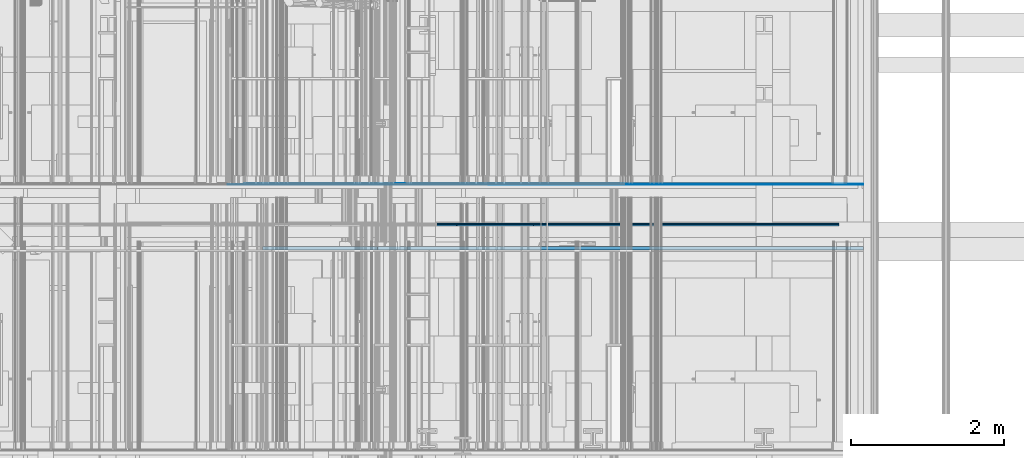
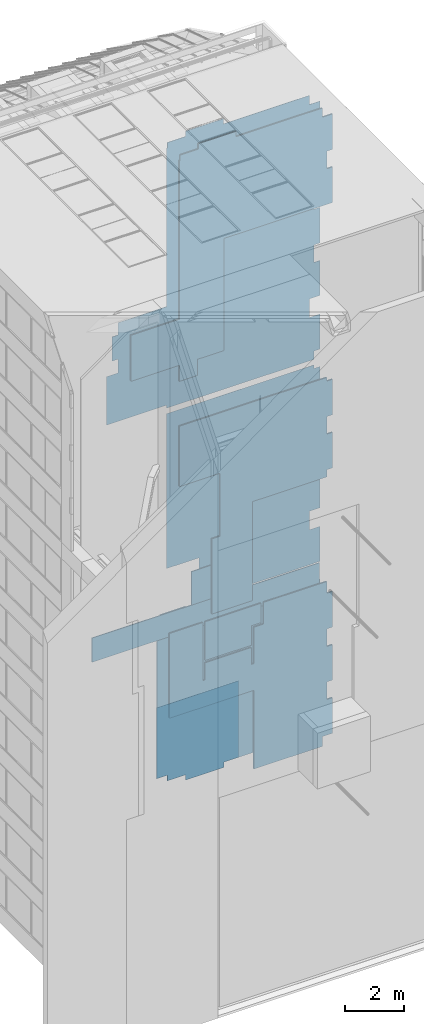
# One storey, part 257 of 583: 13 slabs.
"""IFC2X3 building model written with IfcOpenShell, lengths in metres."""

import ifcopenshell
import ifcopenshell.guid

model = None  # the IFC model being written
_history = None  # IfcOwnerHistory: only IFC2X3 demands one
_inside = {}  # id of a spatial element -> (the spatial element, [elements in it])
_under = {}  # id of a project, library or spatial element -> (it, [spatial elements below it])
_declared = {}  # id of a project -> (the project, [libraries it declares])
_typed = {}  # id of a type object -> (the type object, [elements of that type])
_made_of = {}  # id of a material, layer set ... -> (it, [elements and type objects made of it])


def new_model(schema):
    """Start an empty IFC model of exactly this schema.

    Asked for "IFC4X3", IfcOpenShell would pick the latest addendum, in which some entities
    have other attributes; the version numbers below select the first issue.
    IFC2X3 requires an IfcOwnerHistory on every rooted entity: one is made here for all.
    """
    global model, _history
    if schema == "IFC4X3":
        model = ifcopenshell.file(schema_version=(4, 3, 0, 0))
    else:
        model = ifcopenshell.file(schema=schema)
    _inside.clear()
    _under.clear()
    _declared.clear()
    _typed.clear()
    _made_of.clear()
    _history = None
    if model.schema == "IFC2X3":
        org = make("IfcOrganization", Name="unknown")
        user = make(
            "IfcPersonAndOrganization",
            ThePerson=make("IfcPerson", FamilyName="unknown"),
            TheOrganization=org,
        )
        app = make(
            "IfcApplication",
            ApplicationDeveloper=org,
            Version="unknown",
            ApplicationFullName="unknown",
            ApplicationIdentifier="unknown",
        )
        _history = make(
            "IfcOwnerHistory",
            OwningUser=user,
            OwningApplication=app,
            ChangeAction="ADDED",
            CreationDate=0,
        )
    return model


def make(cls, **values):
    """One entity of the class cls with the attributes given. An attribute that is None is left unset."""
    return model.create_entity(
        cls, **{name: value for name, value in values.items() if value is not None}
    )


def entity(cls, *values):
    """Any entity or typed value of the class cls, its attributes in the order of the schema. None: left unset."""
    e = model.create_entity(cls)
    for i, value in enumerate(values):
        if value is not None:
            e[i] = value
    return e


def rooted(cls, **values):
    """An entity with a GlobalId (a new one), such as an element, a storey or a relation."""
    return make(cls, GlobalId=ifcopenshell.guid.new(), OwnerHistory=_history, **values)


def si_unit(unit_type, name, prefix=None):
    """IfcSIUnit, for example si_unit("LENGTHUNIT", "METRE", prefix="MILLI")."""
    return make("IfcSIUnit", UnitType=unit_type, Prefix=prefix, Name=name)


def converted_unit(unit_type, name, factor, base, dimensions=None, offset=None):
    """IfcConversionBasedUnit, such as the inch: factor (a typed value) times the base unit."""
    return make(
        "IfcConversionBasedUnit"
        if offset is None
        else "IfcConversionBasedUnitWithOffset",
        ConversionOffset=offset,
        Dimensions=None
        if dimensions is None
        else entity("IfcDimensionalExponents", *dimensions),
        UnitType=unit_type,
        Name=name,
        ConversionFactor=make(
            "IfcMeasureWithUnit", ValueComponent=factor, UnitComponent=base
        ),
    )


def derived_unit(unit_type, elements):
    """IfcDerivedUnit: a product of units, each with its exponent."""
    return make(
        "IfcDerivedUnit",
        Elements=[
            make("IfcDerivedUnitElement", Unit=unit, Exponent=power)
            for unit, power in elements
        ],
        UnitType=unit_type,
    )


def money_unit(currency):
    """IfcMonetaryUnit."""
    return make("IfcMonetaryUnit", Currency=currency)


def assignment(units):
    """IfcUnitAssignment: the units of a project."""
    return None if units is None else make("IfcUnitAssignment", Units=units)


def point(xyz):
    """IfcCartesianPoint."""
    return None if xyz is None else make("IfcCartesianPoint", Coordinates=xyz)


def direction(xyz):
    """IfcDirection."""
    return None if xyz is None else make("IfcDirection", DirectionRatios=xyz)


def frame(location, z_axis=None, x_axis=None):
    """IfcAxis2Placement3D, a coordinate frame: its origin and axes. An axis left out is left unset."""
    return make(
        "IfcAxis2Placement3D",
        Location=point(location),
        Axis=direction(z_axis),
        RefDirection=direction(x_axis),
    )


def origin_with_axes():
    """The frame at (0, 0, 0) with the z axis (0, 0, 1) and the x axis (1, 0, 0) written out."""
    return frame((0.0, 0.0, 0.0), z_axis=(0.0, 0.0, 1.0), x_axis=(1.0, 0.0, 0.0))


def place(relative_to, where):
    """IfcLocalPlacement: puts the frame where relative to a parent placement (None: the world)."""
    return make(
        "IfcLocalPlacement", PlacementRelTo=relative_to, RelativePlacement=where
    )


def context(
    kind, dimensions, precision=None, world=None, true_north=None, identifier=None
):
    """IfcGeometricRepresentationContext, for example the 3D "Model" context."""
    return make(
        "IfcGeometricRepresentationContext",
        ContextIdentifier=identifier,
        ContextType=kind,
        CoordinateSpaceDimension=dimensions,
        Precision=precision,
        WorldCoordinateSystem=world,
        TrueNorth=true_north,
    )


def subcontext(parent, identifier, kind, view, scale=None):
    """IfcGeometricRepresentationSubContext, for example "Body" below "Model"."""
    return make(
        "IfcGeometricRepresentationSubContext",
        ContextIdentifier=identifier,
        ContextType=kind,
        ParentContext=parent,
        TargetScale=scale,
        TargetView=view,
    )


def project(units=None, contexts=None):
    """IfcProject with its units and contexts."""
    return rooted(
        "IfcProject",
        Name="project",
        RepresentationContexts=contexts,
        UnitsInContext=assignment(units),
    )


def spatial(cls, under=None, at=None, **own):
    """A site, building, storey or space (cls), placed at a placement, below another one or the project."""
    s = rooted(cls, ObjectPlacement=at, **own)
    if under is not None:
        _under.setdefault(under.id(), (under, []))[1].append(s)
    return s


def faces_of(points, faces, orient=None, outer=None):
    """IfcFace entities. A face is a list of loops; a loop is a list of indices into points, from 0.

    orient and outer hold one flag for each loop. By default every Orientation is true, the
    first loop of a face is its IfcFaceOuterBound and the others are IfcFaceBound.
    """
    made = []
    for i, loops in enumerate(faces):
        bounds = []
        for j, loop in enumerate(loops):
            is_outer = j == 0 if outer is None else outer[i][j]
            bounds.append(
                make(
                    "IfcFaceOuterBound" if is_outer else "IfcFaceBound",
                    Bound=make("IfcPolyLoop", Polygon=[points[k] for k in loop]),
                    Orientation=True if orient is None else orient[i][j],
                )
            )
        made.append(make("IfcFace", Bounds=bounds))
    return made


def faceted_brep(points, faces, orient=None, outer=None, voids=None):
    """IfcFacetedBrep: a solid bounded by flat faces; with voids (closed shells), ...WithVoids."""
    shared = [point(p) for p in points]
    hull = make("IfcClosedShell", CfsFaces=faces_of(shared, faces, orient, outer))
    if voids is None:
        return make("IfcFacetedBrep", Outer=hull)
    return make(
        "IfcFacetedBrepWithVoids",
        Outer=hull,
        Voids=[
            make(cls, CfsFaces=faces_of(shared, fs, o, b)) for cls, fs, o, b in voids
        ],
    )


def shape(context_of_items, identifier, shape_type, items):
    """IfcShapeRepresentation: the items that make up one representation, for example the "Body"."""
    return make(
        "IfcShapeRepresentation",
        ContextOfItems=context_of_items,
        RepresentationIdentifier=identifier,
        RepresentationType=shape_type,
        Items=items,
    )


def material(Name=None, Category=None):
    """IfcMaterial."""
    return make("IfcMaterial", Name=Name, Category=Category)


def made_of(thing, what):
    """Note that an element or type object is made of a material, layer set ...; save() writes the relation."""
    if what is not None:
        _made_of.setdefault(what.id(), (what, []))[1].append(thing)
    return thing


def type_object(cls, material=None, **own):
    """A type object (cls), such as IfcWallType, which elements share."""
    return made_of(rooted(cls, **own), material)


def element(
    cls,
    number,
    at=None,
    inside=None,
    cuts=None,
    type_object=None,
    material=None,
    context=None,
    identifier="Body",
    shape_type=None,
    held_by="IfcProductDefinitionShape",
    body=None,
    shapes=None,
    **own,
):
    """One element of the class cls, such as IfcWall. Its Tag is "e" and its number.

    at: its placement. inside: the storey or other place that contains it. cuts: it is an
    opening in that element (IfcRelVoidsElement). A single representation is given by context,
    identifier, shape_type and body (its items); several are given by shapes. held_by: the class
    of the entity that holds the representations. save() writes the other relations.
    """
    e = rooted(cls, Tag="e%d" % number, ObjectPlacement=at, **own)
    if body is not None:
        shapes = [shape(context, identifier, shape_type, body)]
    if shapes is not None:
        e.Representation = make(held_by, Representations=shapes)
    if inside is not None:
        _inside.setdefault(inside.id(), (inside, []))[1].append(e)
    if cuts is not None:
        rooted(
            "IfcRelVoidsElement", RelatingBuildingElement=cuts, RelatedOpeningElement=e
        )
    if type_object is not None:
        _typed.setdefault(type_object.id(), (type_object, []))[1].append(e)
    return made_of(e, material)


def aggregate(whole, parts):
    """IfcRelAggregates: a whole, such as a stair, and the parts it consists of."""
    return rooted("IfcRelAggregates", RelatingObject=whole, RelatedObjects=parts)


def save(model, path):
    """Write the relations noted so far, then the file.

    IfcRelAggregates (storeys below a building ...), IfcRelContainedInSpatialStructure (elements
    in a storey), IfcRelDefinesByType, IfcRelAssociatesMaterial and IfcRelDeclares: one each for
    every whole, place, type object, material and project.
    """
    for whole, parts in _under.values():
        aggregate(whole, parts)
    for where, things in _inside.values():
        rooted(
            "IfcRelContainedInSpatialStructure",
            RelatedElements=things,
            RelatingStructure=where,
        )
    for kind, things in _typed.values():
        rooted("IfcRelDefinesByType", RelatedObjects=things, RelatingType=kind)
    for what, things in _made_of.values():
        rooted("IfcRelAssociatesMaterial", RelatedObjects=things, RelatingMaterial=what)
    for by, libraries in _declared.values():
        rooted("IfcRelDeclares", RelatingContext=by, RelatedDefinitions=libraries)
    model.write(path)


model = new_model("IFC2X3")

# Units and contexts
model_context = context("Model", 3, precision=1e-05, world=origin_with_axes(), true_north=direction((0.0, 1.0)))
body_context = subcontext(model_context, "Body", "Model", "MODEL_VIEW", scale=1.0)
ifc_project = project(units=[si_unit("LENGTHUNIT", "METRE"), si_unit("AREAUNIT", "SQUARE_METRE"), si_unit("VOLUMEUNIT", "CUBIC_METRE"), si_unit("ABSORBEDDOSEUNIT", "GRAY"), si_unit("AMOUNTOFSUBSTANCEUNIT", "MOLE"), si_unit("DOSEEQUIVALENTUNIT", "SIEVERT"), si_unit("ELECTRICCAPACITANCEUNIT", "FARAD"), si_unit("ELECTRICCHARGEUNIT", "COULOMB"), si_unit("ELECTRICCONDUCTANCEUNIT", "SIEMENS"), si_unit("ELECTRICCURRENTUNIT", "AMPERE"), si_unit("ELECTRICRESISTANCEUNIT", "OHM"), si_unit("ELECTRICVOLTAGEUNIT", "VOLT"), si_unit("ENERGYUNIT", "JOULE"), si_unit("FORCEUNIT", "NEWTON"), si_unit("FREQUENCYUNIT", "HERTZ"), si_unit("ILLUMINANCEUNIT", "LUX"), si_unit("INDUCTANCEUNIT", "HENRY"), si_unit("LUMINOUSFLUXUNIT", "LUMEN"), si_unit("LUMINOUSINTENSITYUNIT", "CANDELA"), si_unit("MAGNETICFLUXDENSITYUNIT", "TESLA"), si_unit("MAGNETICFLUXUNIT", "WEBER"), si_unit("MASSUNIT", "GRAM"), converted_unit("PLANEANGLEUNIT", "degree", entity("IfcReal", 0.0174532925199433), si_unit("PLANEANGLEUNIT", "RADIAN"), dimensions=[0, 0, 0, 0, 0, 0, 0]), si_unit("POWERUNIT", "WATT"), si_unit("PRESSUREUNIT", "PASCAL"), si_unit("RADIOACTIVITYUNIT", "BECQUEREL"), si_unit("SOLIDANGLEUNIT", "STERADIAN"), si_unit("THERMODYNAMICTEMPERATUREUNIT", "KELVIN"), si_unit("TIMEUNIT", "SECOND"), derived_unit("ACCELERATIONUNIT", [(si_unit("LENGTHUNIT", "METRE"), 1), (si_unit("TIMEUNIT", "SECOND"), -2)]), derived_unit("ANGULARVELOCITYUNIT", [(converted_unit("PLANEANGLEUNIT", "degree", entity("IfcReal", 0.0174532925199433), si_unit("PLANEANGLEUNIT", "RADIAN"), dimensions=[0, 0, 0, 0, 0, 0, 0]), 1), (si_unit("TIMEUNIT", "SECOND"), -1)]), derived_unit("CURVATUREUNIT", [(converted_unit("PLANEANGLEUNIT", "degree", entity("IfcReal", 0.0174532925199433), si_unit("PLANEANGLEUNIT", "RADIAN"), dimensions=[0, 0, 0, 0, 0, 0, 0]), 1), (si_unit("LENGTHUNIT", "METRE"), -1)]), derived_unit("DYNAMICVISCOSITYUNIT", [(si_unit("PRESSUREUNIT", "PASCAL"), 1), (si_unit("TIMEUNIT", "SECOND"), 1)]), derived_unit("HEATFLUXDENSITYUNIT", [(si_unit("POWERUNIT", "WATT"), 1), (si_unit("LENGTHUNIT", "METRE"), -2)]), derived_unit("HEATINGVALUEUNIT", [(si_unit("ENERGYUNIT", "JOULE"), 1), (si_unit("MASSUNIT", "GRAM"), -1)]), derived_unit("INTEGERCOUNTRATEUNIT", [(si_unit("TIMEUNIT", "SECOND"), -1)]), derived_unit("IONCONCENTRATIONUNIT", [(si_unit("MASSUNIT", "GRAM"), 1), (si_unit("VOLUMEUNIT", "CUBIC_METRE"), -1)]), derived_unit("ISOTHERMALMOISTURECAPACITYUNIT", [(si_unit("VOLUMEUNIT", "CUBIC_METRE"), 1), (si_unit("MASSUNIT", "GRAM"), -1)]), derived_unit("KINEMATICVISCOSITYUNIT", [(si_unit("AREAUNIT", "SQUARE_METRE"), 1), (si_unit("TIMEUNIT", "SECOND"), -1)]), derived_unit("LINEARFORCEUNIT", [(si_unit("FORCEUNIT", "NEWTON"), 1), (si_unit("LENGTHUNIT", "METRE"), -1)]), derived_unit("LINEARMOMENTUNIT", [(si_unit("FORCEUNIT", "NEWTON"), 1), (si_unit("LENGTHUNIT", "METRE"), -1)]), derived_unit("LINEARSTIFFNESSUNIT", [(si_unit("FORCEUNIT", "NEWTON"), 1), (si_unit("LENGTHUNIT", "METRE"), -1)]), derived_unit("LINEARVELOCITYUNIT", [(si_unit("LENGTHUNIT", "METRE"), 1), (si_unit("TIMEUNIT", "SECOND"), -1)]), derived_unit("LUMINOUSINTENSITYDISTRIBUTIONUNIT", [(si_unit("LUMINOUSINTENSITYUNIT", "CANDELA"), 1), (si_unit("LUMINOUSFLUXUNIT", "LUMEN"), -1)]), derived_unit("MASSDENSITYUNIT", [(si_unit("MASSUNIT", "GRAM"), 1), (si_unit("VOLUMEUNIT", "CUBIC_METRE"), -1)]), derived_unit("MASSFLOWRATEUNIT", [(si_unit("MASSUNIT", "GRAM"), 1), (si_unit("TIMEUNIT", "SECOND"), -1)]), derived_unit("MASSPERLENGTHUNIT", [(si_unit("MASSUNIT", "GRAM"), 1), (si_unit("LENGTHUNIT", "METRE"), -1)]), derived_unit("MODULUSOFELASTICITYUNIT", [(si_unit("FORCEUNIT", "NEWTON"), 1), (si_unit("AREAUNIT", "SQUARE_METRE"), -1)]), derived_unit("MODULUSOFLINEARSUBGRADEREACTIONUNIT", [(si_unit("FORCEUNIT", "NEWTON"), 1), (si_unit("LENGTHUNIT", "METRE"), -2)]), derived_unit("MODULUSOFROTATIONALSUBGRADEREACTIONUNIT", [(si_unit("FORCEUNIT", "NEWTON"), 1), (si_unit("LENGTHUNIT", "METRE"), 1)]), derived_unit("MODULUSOFSUBGRADEREACTIONUNIT", [(si_unit("FORCEUNIT", "NEWTON"), 1), (si_unit("VOLUMEUNIT", "CUBIC_METRE"), -1)]), derived_unit("MOISTUREDIFFUSIVITYUNIT", [(si_unit("VOLUMEUNIT", "CUBIC_METRE"), 1), (si_unit("TIMEUNIT", "SECOND"), -1)]), derived_unit("MOLECULARWEIGHTUNIT", [(si_unit("MASSUNIT", "GRAM"), 1), (si_unit("AMOUNTOFSUBSTANCEUNIT", "MOLE"), -1)]), derived_unit("PLANARFORCEUNIT", [(si_unit("FORCEUNIT", "NEWTON"), 1), (si_unit("LENGTHUNIT", "METRE"), -2)]), derived_unit("ROTATIONALFREQUENCYUNIT", [(si_unit("TIMEUNIT", "SECOND"), -1)]), derived_unit("ROTATIONALMASSUNIT", [(si_unit("MASSUNIT", "GRAM"), 1), (si_unit("LENGTHUNIT", "METRE"), 2)]), derived_unit("ROTATIONALSTIFFNESSUNIT", [(si_unit("FORCEUNIT", "NEWTON"), 1), (si_unit("LENGTHUNIT", "METRE"), 1), (converted_unit("PLANEANGLEUNIT", "degree", entity("IfcReal", 0.0174532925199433), si_unit("PLANEANGLEUNIT", "RADIAN"), dimensions=[0, 0, 0, 0, 0, 0, 0]), -1)]), derived_unit("SECTIONAREAINTEGRALUNIT", [(si_unit("LENGTHUNIT", "METRE"), 5)]), derived_unit("SECTIONMODULUSUNIT", [(si_unit("LENGTHUNIT", "METRE"), 3)]), derived_unit("SHEARMODULUSUNIT", [(si_unit("FORCEUNIT", "NEWTON"), 1), (si_unit("AREAUNIT", "SQUARE_METRE"), -1)]), derived_unit("SOUNDPOWERUNIT", [(si_unit("ENERGYUNIT", "JOULE"), 1), (si_unit("TIMEUNIT", "SECOND"), -1)]), derived_unit("SPECIFICHEATCAPACITYUNIT", [(si_unit("FORCEUNIT", "NEWTON"), 1), (si_unit("MASSUNIT", "GRAM"), -1), (si_unit("THERMODYNAMICTEMPERATUREUNIT", "KELVIN"), -1)]), derived_unit("TEMPERATUREGRADIENTUNIT", [(si_unit("THERMODYNAMICTEMPERATUREUNIT", "KELVIN"), 1), (si_unit("LENGTHUNIT", "METRE"), -1)]), derived_unit("THERMALADMITTANCEUNIT", [(si_unit("POWERUNIT", "WATT"), 1), (si_unit("AREAUNIT", "SQUARE_METRE"), -1), (si_unit("THERMODYNAMICTEMPERATUREUNIT", "KELVIN"), -1)]), derived_unit("THERMALCONDUCTANCEUNIT", [(si_unit("POWERUNIT", "WATT"), 1), (si_unit("LENGTHUNIT", "METRE"), -1), (si_unit("THERMODYNAMICTEMPERATUREUNIT", "KELVIN"), -1)]), derived_unit("THERMALEXPANSIONCOEFFICIENTUNIT", [(si_unit("THERMODYNAMICTEMPERATUREUNIT", "KELVIN"), -1)]), derived_unit("THERMALRESISTANCEUNIT", [(si_unit("AREAUNIT", "SQUARE_METRE"), 1), (si_unit("POWERUNIT", "WATT"), -1)]), derived_unit("THERMALTRANSMITTANCEUNIT", [(si_unit("POWERUNIT", "WATT"), 1), (si_unit("AREAUNIT", "SQUARE_METRE"), -1), (si_unit("THERMODYNAMICTEMPERATUREUNIT", "KELVIN"), -1)]), derived_unit("TORQUEUNIT", [(si_unit("FORCEUNIT", "NEWTON"), 1), (si_unit("LENGTHUNIT", "METRE"), 1)]), derived_unit("VAPORPERMEABILITYUNIT", [(si_unit("MASSUNIT", "GRAM"), 1), (si_unit("TIMEUNIT", "SECOND"), -1)]), derived_unit("VOLUMETRICFLOWRATEUNIT", [(si_unit("VOLUMEUNIT", "CUBIC_METRE"), 1), (si_unit("TIMEUNIT", "SECOND"), -1)]), derived_unit("WARPINGCONSTANTUNIT", [(si_unit("LENGTHUNIT", "METRE"), 6)]), derived_unit("WARPINGMOMENTUNIT", [(si_unit("FORCEUNIT", "NEWTON"), 1), (si_unit("LENGTHUNIT", "METRE"), 2)]), money_unit("GBP")], contexts=[model_context])

# Site, building, storey
site_placement = place(None, origin_with_axes())
site = spatial("IfcSite", under=ifc_project, at=site_placement, Name="Site", CompositionType="ELEMENT")
building_placement = place(site_placement, origin_with_axes())
building = spatial("IfcBuilding", under=site, at=building_placement, Name="Building01", CompositionType="ELEMENT")
storey_placement = place(building_placement, frame((0.0, 0.0, 20.78), z_axis=(0.0, 0.0, 1.0), x_axis=(1.0, 0.0, 0.0)))
storey = spatial("IfcBuildingStorey", under=building, at=storey_placement, Name="RL", CompositionType="ELEMENT", Elevation=20.78)

# Slabs
ifc_material_1 = material(Name="A_BSUK_ExpandedPolystyreneBoards")
slab_type_1 = type_object("IfcSlabType", Name="A-FloorsSlabs A_BSUK_Slabs", PredefinedType="FLOOR")
placement = place(storey_placement, frame((0.0, 0.0, -20.78), z_axis=(0.0, 0.0, 1.0), x_axis=(1.0, 0.0, 0.0)))
element("IfcSlab", 1, at=placement, inside=storey, type_object=slab_type_1, material=ifc_material_1, Name="A-FloorsSlabs A_BSUK_Slabs", ObjectType="CompoundSlabLeaf", context=body_context, shape_type="Brep", body=[
    faceted_brep([(14.402, 12.13, 0.725), (14.402, 12.133, 0.725), (14.8, 12.133, 0.725), (14.8, 12.13, 0.725), (14.402, 12.13, 0.318), (14.402, 12.133, 0.318), (11.055, 12.13, 0.318), (11.055, 12.133, 0.318), (11.055, 12.13, 0.1), (11.055, 12.133, 0.1), (9.56218, 12.13, 0.1), (9.56218, 12.133, 0.1), (9.56218, 12.13, 0.318), (9.56218, 12.133, 0.318), (8.848, 12.13, 0.318), (8.848, 12.133, 0.318), (8.848, 12.13, 0.548), (8.848, 12.133, 0.548), (8.43567, 12.13, 0.548), (8.43567, 12.133, 0.548), (8.43567, 12.13, 7.064669), (8.43567, 12.133, 7.064669), (8.550704, 12.13, 7.064669), (8.550704, 12.133, 7.064669), (8.550704, 12.13, 7.289669), (8.550704, 12.133, 7.289669), (9.550704, 12.13, 7.289669), (9.550704, 12.133, 7.289669), (9.550704, 12.13, 7.064669), (9.550704, 12.133, 7.064669), (14.582, 12.13, 7.064669), (14.582, 12.133, 7.064669), (14.582, 12.13, 6.574876), (14.582, 12.133, 6.574876), (14.8, 12.13, 6.574876), (14.8, 12.133, 6.574876), (14.8, 12.13, 5.105), (14.8, 12.133, 5.105), (14.582, 12.13, 5.105), (14.582, 12.133, 5.105), (14.582, 12.13, 4.385), (14.582, 12.133, 4.385), (14.8, 12.13, 4.385), (14.8, 12.133, 4.385), (14.8, 12.13, 2.915), (14.8, 12.133, 2.915), (14.582, 12.13, 2.915), (14.582, 12.133, 2.915), (14.582, 12.13, 2.195), (14.582, 12.133, 2.195), (14.8, 12.13, 2.195), (14.8, 12.133, 2.195)], [[[0, 1, 2, 3]], [[4, 5, 1, 0]], [[6, 7, 5, 4]], [[8, 9, 7, 6]], [[10, 11, 9, 8]], [[12, 13, 11, 10]], [[14, 15, 13, 12]], [[16, 17, 15, 14]], [[18, 19, 17, 16]], [[20, 21, 19, 18]], [[22, 23, 21, 20]], [[24, 25, 23, 22]], [[26, 27, 25, 24]], [[28, 29, 27, 26]], [[30, 31, 29, 28]], [[32, 33, 31, 30]], [[34, 35, 33, 32]], [[36, 37, 35, 34]], [[38, 39, 37, 36]], [[40, 41, 39, 38]], [[42, 43, 41, 40]], [[44, 45, 43, 42]], [[46, 47, 45, 44]], [[48, 49, 47, 46]], [[50, 51, 49, 48]], [[3, 2, 51, 50]], [[1, 5, 7, 9, 11, 13, 15, 17, 19, 21, 23, 25, 27, 29, 31, 33, 35, 37, 39, 41, 43, 45, 47, 49, 51, 2]], [[3, 50, 48, 46, 44, 42, 40, 38, 36, 34, 32, 30, 28, 26, 24, 22, 20, 18, 16, 14, 12, 10, 8, 6, 4, 0]]]),
])
element("IfcSlab", 2, at=placement, inside=storey, type_object=slab_type_1, material=ifc_material_1, Name="A-FloorsSlabs A_BSUK_Slabs", ObjectType="CompoundSlabLeaf", context=body_context, shape_type="Brep", body=[
    faceted_brep([(10.087704, 12.13, 7.289669), (10.087704, 12.133, 7.289669), (14.582, 12.133, 7.289669), (14.582, 12.13, 7.289669), (10.087704, 12.13, 9.09), (10.087704, 12.133, 9.09), (9.200704, 12.13, 9.09), (9.200704, 12.133, 9.09), (8.82, 12.13, 9.09), (8.82, 12.133, 9.09), (8.82, 12.13, 12.893585), (8.82, 12.133, 12.893585), (8.82, 12.13, 15.483132), (8.82, 12.133, 15.483132), (14.582, 12.13, 15.483132), (14.582, 12.133, 15.483132), (14.582, 12.13, 15.335), (14.582, 12.133, 15.335), (14.8, 12.13, 15.335), (14.8, 12.133, 15.335), (14.8, 12.13, 13.865), (14.8, 12.133, 13.865), (14.582, 12.13, 13.865), (14.582, 12.133, 13.865), (14.582, 12.13, 13.145), (14.582, 12.133, 13.145), (14.8, 12.13, 13.145), (14.8, 12.133, 13.145), (14.8, 12.13, 11.675), (14.8, 12.133, 11.675), (14.582, 12.13, 11.675), (14.582, 12.133, 11.675), (14.582, 12.13, 10.955), (14.582, 12.133, 10.955), (14.8, 12.13, 10.955), (14.8, 12.133, 10.955), (14.8, 12.13, 9.508), (14.8, 12.133, 9.508), (14.402, 12.13, 9.508), (14.402, 12.133, 9.508), (14.402, 12.13, 8.742), (14.402, 12.133, 8.742), (14.8, 12.13, 8.742), (14.8, 12.133, 8.742), (14.8, 12.13, 7.295), (14.8, 12.133, 7.295), (14.582, 12.13, 7.295), (14.582, 12.133, 7.295)], [[[0, 1, 2, 3]], [[4, 5, 1, 0]], [[6, 7, 5, 4]], [[8, 9, 7, 6]], [[10, 11, 9, 8]], [[12, 13, 11, 10]], [[14, 15, 13, 12]], [[16, 17, 15, 14]], [[18, 19, 17, 16]], [[20, 21, 19, 18]], [[22, 23, 21, 20]], [[24, 25, 23, 22]], [[26, 27, 25, 24]], [[28, 29, 27, 26]], [[30, 31, 29, 28]], [[32, 33, 31, 30]], [[34, 35, 33, 32]], [[36, 37, 35, 34]], [[38, 39, 37, 36]], [[40, 41, 39, 38]], [[42, 43, 41, 40]], [[44, 45, 43, 42]], [[46, 47, 45, 44]], [[3, 2, 47, 46]], [[1, 5, 7, 9, 11, 13, 15, 17, 19, 21, 23, 25, 27, 29, 31, 33, 35, 37, 39, 41, 43, 45, 47, 2]], [[3, 46, 44, 42, 40, 38, 36, 34, 32, 30, 28, 26, 24, 22, 20, 18, 16, 14, 12, 10, 8, 6, 4, 0]]]),
])
element("IfcSlab", 3, at=placement, inside=storey, type_object=slab_type_1, material=ifc_material_1, Name="A-FloorsSlabs A_BSUK_Slabs", ObjectType="CompoundSlabLeaf", context=body_context, shape_type="Brep", body=[
    faceted_brep([(8.82, 12.13, 15.83), (8.82, 12.133, 15.83), (8.82, 12.133, 15.708132), (8.82, 12.13, 15.708132), (8.65, 12.13, 15.83), (8.65, 12.133, 15.83), (6.475, 12.13, 15.83), (6.475, 12.133, 15.83), (6.475, 12.13, 17.83), (6.475, 12.133, 17.83), (6.93, 12.13, 17.83), (6.93, 12.133, 17.83), (6.93, 12.13, 18.0), (6.93, 12.133, 18.0), (6.93, 12.13, 18.392), (6.93, 12.133, 18.392), (6.69, 12.13, 18.392), (6.69, 12.133, 18.392), (6.69, 12.13, 19.392), (6.69, 12.133, 19.392), (6.93, 12.13, 19.392), (6.93, 12.133, 19.392), (6.93, 12.13, 19.897661), (6.93, 12.133, 19.897661), (8.82, 12.13, 19.897661), (8.82, 12.133, 19.897661), (8.82, 12.13, 26.432), (8.82, 12.133, 26.432), (8.848, 12.13, 26.432), (8.848, 12.133, 26.432), (8.848, 12.13, 26.662), (8.848, 12.133, 26.662), (9.56218, 12.13, 26.662), (9.56218, 12.133, 26.662), (9.56218, 12.13, 26.88), (9.56218, 12.133, 26.88), (11.03218, 12.13, 26.88), (11.03218, 12.133, 26.88), (11.03218, 12.13, 26.662), (11.03218, 12.133, 26.662), (14.402, 12.13, 26.662), (14.402, 12.133, 26.662), (14.402, 12.13, 26.285), (14.402, 12.133, 26.285), (14.8, 12.13, 26.285), (14.8, 12.133, 26.285), (14.8, 12.13, 24.815), (14.8, 12.133, 24.815), (14.582, 12.13, 24.815), (14.582, 12.133, 24.815), (14.582, 12.13, 24.095), (14.582, 12.133, 24.095), (14.8, 12.13, 24.095), (14.8, 12.133, 24.095), (14.8, 12.13, 22.625), (14.8, 12.133, 22.625), (14.582, 12.13, 22.625), (14.582, 12.133, 22.625), (14.582, 12.13, 21.905), (14.582, 12.133, 21.905), (14.8, 12.13, 21.905), (14.8, 12.133, 21.905), (14.8, 12.13, 20.435), (14.8, 12.133, 20.435), (14.582, 12.13, 20.435), (14.582, 12.133, 20.435), (14.582, 12.13, 19.715), (14.582, 12.133, 19.715), (14.8, 12.13, 19.715), (14.8, 12.133, 19.715), (14.8, 12.13, 18.268), (14.8, 12.133, 18.268), (14.402, 12.13, 18.268), (14.402, 12.133, 18.268), (14.402, 12.13, 17.502), (14.402, 12.133, 17.502), (14.8, 12.13, 17.502), (14.8, 12.133, 17.502), (14.8, 12.13, 16.055), (14.8, 12.133, 16.055), (14.582, 12.13, 16.055), (14.582, 12.133, 16.055), (14.582, 12.13, 15.708132), (14.582, 12.133, 15.708132)], [[[0, 1, 2, 3]], [[4, 5, 1, 0]], [[6, 7, 5, 4]], [[8, 9, 7, 6]], [[10, 11, 9, 8]], [[12, 13, 11, 10]], [[14, 15, 13, 12]], [[16, 17, 15, 14]], [[18, 19, 17, 16]], [[20, 21, 19, 18]], [[22, 23, 21, 20]], [[24, 25, 23, 22]], [[26, 27, 25, 24]], [[28, 29, 27, 26]], [[30, 31, 29, 28]], [[32, 33, 31, 30]], [[34, 35, 33, 32]], [[36, 37, 35, 34]], [[38, 39, 37, 36]], [[40, 41, 39, 38]], [[42, 43, 41, 40]], [[44, 45, 43, 42]], [[46, 47, 45, 44]], [[48, 49, 47, 46]], [[50, 51, 49, 48]], [[52, 53, 51, 50]], [[54, 55, 53, 52]], [[56, 57, 55, 54]], [[58, 59, 57, 56]], [[60, 61, 59, 58]], [[62, 63, 61, 60]], [[64, 65, 63, 62]], [[66, 67, 65, 64]], [[68, 69, 67, 66]], [[70, 71, 69, 68]], [[72, 73, 71, 70]], [[74, 75, 73, 72]], [[76, 77, 75, 74]], [[78, 79, 77, 76]], [[80, 81, 79, 78]], [[82, 83, 81, 80]], [[3, 2, 83, 82]], [[1, 5, 7, 9, 11, 13, 15, 17, 19, 21, 23, 25, 27, 29, 31, 33, 35, 37, 39, 41, 43, 45, 47, 49, 51, 53, 55, 57, 59, 61, 63, 65, 67, 69, 71, 73, 75, 77, 79, 81, 83, 2]], [[3, 82, 80, 78, 76, 74, 72, 70, 68, 66, 64, 62, 60, 58, 56, 54, 52, 50, 48, 46, 44, 42, 40, 38, 36, 34, 32, 30, 28, 26, 24, 22, 20, 18, 16, 14, 12, 10, 8, 6, 4, 0]]]),
])
ifc_material_2 = material(Name="A_BSUK_Carpet-Pile")
element("IfcSlab", 4, at=placement, inside=storey, type_object=slab_type_1, material=ifc_material_2, Name="A-FloorsSlabs A_BSUK_Slabs", ObjectType="CompoundSlabLeaf", context=body_context, shape_type="Brep", body=[
    faceted_brep([(11.63067, 12.133, 0.318), (11.63067, 12.145, 0.318), (11.63067, 12.145, 3.474669), (11.63067, 12.133, 3.474669), (11.055, 12.133, 0.318), (11.055, 12.145, 0.318), (11.055, 12.133, 0.1), (11.055, 12.145, 0.1), (9.56218, 12.133, 0.1), (9.56218, 12.145, 0.1), (9.56218, 12.133, 0.318), (9.56218, 12.145, 0.318), (8.848, 12.133, 0.318), (8.848, 12.145, 0.318), (8.848, 12.133, 0.548), (8.848, 12.145, 0.548), (8.43567, 12.133, 0.548), (8.43567, 12.145, 0.548), (8.43567, 12.133, 3.474669), (8.43567, 12.145, 3.474669)], [[[0, 1, 2, 3]], [[4, 5, 1, 0]], [[6, 7, 5, 4]], [[8, 9, 7, 6]], [[10, 11, 9, 8]], [[12, 13, 11, 10]], [[14, 15, 13, 12]], [[16, 17, 15, 14]], [[18, 19, 17, 16]], [[3, 2, 19, 18]], [[1, 5, 7, 9, 11, 13, 15, 17, 19, 2]], [[3, 18, 16, 14, 12, 10, 8, 6, 4, 0]]]),
])
ifc_material_3 = material(Name="A_BSUK_Parquet_Floor")
element("IfcSlab", 5, at=placement, inside=storey, type_object=slab_type_1, material=ifc_material_3, Name="A-FloorsSlabs A_BSUK_Slabs", ObjectType="CompoundSlabLeaf", context=body_context, shape_type="Brep", body=[
    faceted_brep([(6.69, 12.133, 18.392), (6.69, 12.145, 18.392), (6.93, 12.145, 18.392), (6.93, 12.133, 18.392), (6.69, 12.133, 19.392), (6.69, 12.145, 19.392), (6.93, 12.133, 19.392), (6.93, 12.145, 19.392), (6.93, 12.133, 19.897661), (6.93, 12.145, 19.897661), (8.82, 12.133, 19.897661), (8.82, 12.145, 19.897661), (8.82, 12.133, 26.432), (8.82, 12.145, 26.432), (8.848, 12.133, 26.432), (8.848, 12.145, 26.432), (8.848, 12.133, 26.662), (8.848, 12.145, 26.662), (9.56218, 12.133, 26.662), (9.56218, 12.145, 26.662), (9.56218, 12.133, 26.88), (9.56218, 12.145, 26.88), (11.03218, 12.133, 26.88), (11.03218, 12.145, 26.88), (11.03218, 12.133, 26.662), (11.03218, 12.145, 26.662), (14.402, 12.133, 26.662), (14.402, 12.145, 26.662), (14.402, 12.133, 26.285), (14.402, 12.145, 26.285), (14.8, 12.133, 26.285), (14.8, 12.145, 26.285), (14.8, 12.133, 24.815), (14.8, 12.145, 24.815), (14.582, 12.133, 24.815), (14.582, 12.145, 24.815), (14.582, 12.133, 24.095), (14.582, 12.145, 24.095), (14.8, 12.133, 24.095), (14.8, 12.145, 24.095), (14.8, 12.133, 22.625), (14.8, 12.145, 22.625), (10.57, 12.133, 22.625), (10.57, 12.145, 22.625), (10.57, 12.133, 20.902284), (10.57, 12.145, 20.902284), (10.665, 12.133, 20.902284), (10.665, 12.145, 20.902284), (10.665, 12.133, 19.918284), (10.665, 12.145, 19.918284), (10.57, 12.133, 19.918284), (10.57, 12.145, 19.918284), (10.57, 12.133, 19.017398), (10.57, 12.145, 19.017398), (10.665, 12.133, 19.017398), (10.665, 12.145, 19.017398), (10.665, 12.133, 18.033398), (10.665, 12.145, 18.033398), (10.57, 12.133, 18.033398), (10.57, 12.145, 18.033398), (10.57, 12.133, 18.0), (10.57, 12.145, 18.0), (9.967396, 12.133, 18.0), (9.967396, 12.145, 18.0), (9.525, 12.133, 18.0), (9.525, 12.145, 18.0), (9.525, 12.133, 17.333132), (9.525, 12.145, 17.333132), (8.82, 12.133, 17.333132), (8.82, 12.145, 17.333132), (8.82, 12.133, 17.905), (8.82, 12.145, 17.905), (8.82, 12.133, 18.0), (8.82, 12.145, 18.0), (7.82088, 12.133, 18.0), (7.82088, 12.145, 18.0), (7.82088, 12.133, 17.83), (7.82088, 12.145, 17.83), (7.02888, 12.133, 17.83), (7.02888, 12.145, 17.83), (7.02888, 12.133, 18.0), (7.02888, 12.145, 18.0), (6.93, 12.133, 18.0), (6.93, 12.145, 18.0)], [[[0, 1, 2, 3]], [[4, 5, 1, 0]], [[6, 7, 5, 4]], [[8, 9, 7, 6]], [[10, 11, 9, 8]], [[12, 13, 11, 10]], [[14, 15, 13, 12]], [[16, 17, 15, 14]], [[18, 19, 17, 16]], [[20, 21, 19, 18]], [[22, 23, 21, 20]], [[24, 25, 23, 22]], [[26, 27, 25, 24]], [[28, 29, 27, 26]], [[30, 31, 29, 28]], [[32, 33, 31, 30]], [[34, 35, 33, 32]], [[36, 37, 35, 34]], [[38, 39, 37, 36]], [[40, 41, 39, 38]], [[42, 43, 41, 40]], [[44, 45, 43, 42]], [[46, 47, 45, 44]], [[48, 49, 47, 46]], [[50, 51, 49, 48]], [[52, 53, 51, 50]], [[54, 55, 53, 52]], [[56, 57, 55, 54]], [[58, 59, 57, 56]], [[60, 61, 59, 58]], [[62, 63, 61, 60]], [[64, 65, 63, 62]], [[66, 67, 65, 64]], [[68, 69, 67, 66]], [[70, 71, 69, 68]], [[72, 73, 71, 70]], [[74, 75, 73, 72]], [[76, 77, 75, 74]], [[78, 79, 77, 76]], [[80, 81, 79, 78]], [[82, 83, 81, 80]], [[3, 2, 83, 82]], [[1, 5, 7, 9, 11, 13, 15, 17, 19, 21, 23, 25, 27, 29, 31, 33, 35, 37, 39, 41, 43, 45, 47, 49, 51, 53, 55, 57, 59, 61, 63, 65, 67, 69, 71, 73, 75, 77, 79, 81, 83, 2]], [[3, 82, 80, 78, 76, 74, 72, 70, 68, 66, 64, 62, 60, 58, 56, 54, 52, 50, 48, 46, 44, 42, 40, 38, 36, 34, 32, 30, 28, 26, 24, 22, 20, 18, 16, 14, 12, 10, 8, 6, 4, 0]]]),
])
ifc_material_4 = material(Name="A_BSUK_CeilingSoffitFinishes_Suspended")
element("IfcSlab", 6, at=placement, inside=storey, type_object=slab_type_1, material=ifc_material_4, Name="A-FloorsSlabs A_BSUK_Slabs", ObjectType="CompoundSlabLeaf", context=body_context, shape_type="Brep", body=[
    faceted_brep([(5.593, 11.605, 6.677169), (5.593, 11.62, 6.677169), (14.48, 11.62, 6.677169), (14.48, 11.605, 6.677169), (5.593, 11.605, 7.677169), (5.593, 11.62, 7.677169), (14.48, 11.605, 7.677169), (14.48, 11.62, 7.677169)], [[[0, 1, 2, 3]], [[4, 5, 1, 0]], [[6, 7, 5, 4]], [[3, 2, 7, 6]], [[1, 5, 7, 2]], [[3, 6, 4, 0]]]),
])
element("IfcSlab", 7, at=placement, inside=storey, type_object=slab_type_1, material=ifc_material_4, Name="A-FloorsSlabs A_BSUK_Slabs", ObjectType="CompoundSlabLeaf", context=body_context, shape_type="Brep", body=[
    faceted_brep([(9.475204, 11.605, 7.677169), (9.475204, 11.62, 7.677169), (10.475204, 11.62, 7.677169), (10.475204, 11.605, 7.677169), (9.475204, 11.605, 9.06), (9.475204, 11.62, 9.06), (10.475204, 11.605, 9.06), (10.475204, 11.62, 9.06)], [[[0, 1, 2, 3]], [[4, 5, 1, 0]], [[6, 7, 5, 4]], [[3, 2, 7, 6]], [[1, 5, 7, 2]], [[3, 6, 4, 0]]]),
])
element("IfcSlab", 8, at=placement, inside=storey, type_object=slab_type_1, material=ifc_material_4, Name="A-FloorsSlabs A_BSUK_Slabs", ObjectType="CompoundSlabLeaf", context=body_context, shape_type="Brep", body=[
    faceted_brep([(5.593, 11.59, 6.677169), (5.593, 11.605, 6.677169), (14.48, 11.605, 6.677169), (14.48, 11.59, 6.677169), (5.593, 11.59, 7.677169), (5.593, 11.605, 7.677169), (14.48, 11.59, 7.677169), (14.48, 11.605, 7.677169)], [[[0, 1, 2, 3]], [[4, 5, 1, 0]], [[6, 7, 5, 4]], [[3, 2, 7, 6]], [[1, 5, 7, 2]], [[3, 6, 4, 0]]]),
])
element("IfcSlab", 9, at=placement, inside=storey, type_object=slab_type_1, material=ifc_material_4, Name="A-FloorsSlabs A_BSUK_Slabs", ObjectType="CompoundSlabLeaf", context=body_context, shape_type="Brep", body=[
    faceted_brep([(9.475204, 11.59, 7.677169), (9.475204, 11.605, 7.677169), (10.475204, 11.605, 7.677169), (10.475204, 11.59, 7.677169), (9.475204, 11.59, 9.06), (9.475204, 11.605, 9.06), (10.475204, 11.59, 9.06), (10.475204, 11.605, 9.06)], [[[0, 1, 2, 3]], [[4, 5, 1, 0]], [[6, 7, 5, 4]], [[3, 2, 7, 6]], [[1, 5, 7, 2]], [[3, 6, 4, 0]]]),
])
slab_type_2 = type_object("IfcSlabType", Name="A-FloorsSlabs A_BSUK_ExpandedPolystyreneBoards", PredefinedType="FLOOR")
element("IfcSlab", 10, at=placement, inside=storey, type_object=slab_type_2, material=ifc_material_1, Name="A-FloorsSlabs A_BSUK_ExpandedPolystyreneBoards", ObjectType="CompoundSlabLeaf", context=body_context, shape_type="Brep", body=[
    faceted_brep([(9.73567, 11.27, 4.669669), (9.73567, 11.32, 4.669669), (9.73567, 11.32, 7.064669), (9.73567, 11.27, 7.064669), (9.83067, 11.27, 4.669669), (9.83067, 11.32, 4.669669), (9.83067, 11.27, 5.369669), (9.83067, 11.32, 5.369669), (11.63067, 11.27, 5.369669), (11.63067, 11.32, 5.369669), (11.63067, 11.27, 4.669669), (11.63067, 11.32, 4.669669), (11.72567, 11.27, 4.669669), (11.72567, 11.32, 4.669669), (11.72567, 11.27, 6.169669), (11.72567, 11.32, 6.169669), (12.11067, 11.27, 6.169669), (12.11067, 11.32, 6.169669), (12.11067, 11.27, 7.064669), (12.11067, 11.32, 7.064669), (14.582, 11.27, 7.064669), (14.582, 11.32, 7.064669), (14.582, 11.27, 6.574876), (14.582, 11.32, 6.574876), (14.8, 11.27, 6.574876), (14.8, 11.32, 6.574876), (14.8, 11.27, 5.105), (14.8, 11.32, 5.105), (14.582, 11.27, 5.105), (14.582, 11.32, 5.105), (14.582, 11.27, 4.385), (14.582, 11.32, 4.385), (14.8, 11.27, 4.385), (14.8, 11.32, 4.385), (14.8, 11.27, 2.915), (14.8, 11.32, 2.915), (14.582, 11.27, 2.915), (14.582, 11.32, 2.915), (14.582, 11.27, 2.195), (14.582, 11.32, 2.195), (14.8, 11.27, 2.195), (14.8, 11.32, 2.195), (14.8, 11.27, 0.725), (14.8, 11.32, 0.725), (14.402, 11.27, 0.725), (14.402, 11.32, 0.725), (14.402, 11.27, 0.318), (14.402, 11.32, 0.318), (11.72567, 11.27, 0.318), (11.72567, 11.32, 0.318), (11.72567, 11.27, 3.569669), (11.72567, 11.32, 3.569669), (8.43567, 11.27, 3.569669), (8.43567, 11.32, 3.569669), (8.43567, 11.27, 7.064669), (8.43567, 11.32, 7.064669)], [[[0, 1, 2, 3]], [[4, 5, 1, 0]], [[6, 7, 5, 4]], [[8, 9, 7, 6]], [[10, 11, 9, 8]], [[12, 13, 11, 10]], [[14, 15, 13, 12]], [[16, 17, 15, 14]], [[18, 19, 17, 16]], [[20, 21, 19, 18]], [[22, 23, 21, 20]], [[24, 25, 23, 22]], [[26, 27, 25, 24]], [[28, 29, 27, 26]], [[30, 31, 29, 28]], [[32, 33, 31, 30]], [[34, 35, 33, 32]], [[36, 37, 35, 34]], [[38, 39, 37, 36]], [[40, 41, 39, 38]], [[42, 43, 41, 40]], [[44, 45, 43, 42]], [[46, 47, 45, 44]], [[48, 49, 47, 46]], [[50, 51, 49, 48]], [[52, 53, 51, 50]], [[54, 55, 53, 52]], [[3, 2, 55, 54]], [[1, 5, 7, 9, 11, 13, 15, 17, 19, 21, 23, 25, 27, 29, 31, 33, 35, 37, 39, 41, 43, 45, 47, 49, 51, 53, 55, 2]], [[3, 54, 52, 50, 48, 46, 44, 42, 40, 38, 36, 34, 32, 30, 28, 26, 24, 22, 20, 18, 16, 14, 12, 10, 8, 6, 4, 0]]]),
])
element("IfcSlab", 11, at=placement, inside=storey, type_object=slab_type_2, material=ifc_material_1, Name="A-FloorsSlabs A_BSUK_ExpandedPolystyreneBoards", ObjectType="CompoundSlabLeaf", context=body_context, shape_type="Brep", body=[
    faceted_brep([(10.415, 11.27, 12.988585), (10.415, 11.32, 12.988585), (10.415, 11.32, 10.393871), (10.415, 11.27, 10.393871), (8.82, 11.27, 12.988585), (8.82, 11.32, 12.988585), (8.82, 11.27, 15.483132), (8.82, 11.32, 15.483132), (14.582, 11.27, 15.483132), (14.582, 11.32, 15.483132), (14.582, 11.27, 15.335), (14.582, 11.32, 15.335), (14.8, 11.27, 15.335), (14.8, 11.32, 15.335), (14.8, 11.27, 13.865), (14.8, 11.32, 13.865), (14.582, 11.27, 13.865), (14.582, 11.32, 13.865), (14.582, 11.27, 13.145), (14.582, 11.32, 13.145), (14.8, 11.27, 13.145), (14.8, 11.32, 13.145), (14.8, 11.27, 11.675), (14.8, 11.32, 11.675), (14.582, 11.27, 11.675), (14.582, 11.32, 11.675), (14.582, 11.27, 11.375), (14.582, 11.32, 11.375), (11.668124, 11.27, 11.375), (11.668124, 11.32, 11.375), (11.668124, 11.27, 10.653), (11.668124, 11.32, 10.653), (11.668124, 11.27, 9.642), (11.668124, 11.32, 9.642), (11.668124, 11.27, 7.289669), (11.668124, 11.32, 7.289669), (10.087704, 11.27, 7.289669), (10.087704, 11.32, 7.289669), (10.087704, 11.27, 10.393871), (10.087704, 11.32, 10.393871)], [[[0, 1, 2, 3]], [[4, 5, 1, 0]], [[6, 7, 5, 4]], [[8, 9, 7, 6]], [[10, 11, 9, 8]], [[12, 13, 11, 10]], [[14, 15, 13, 12]], [[16, 17, 15, 14]], [[18, 19, 17, 16]], [[20, 21, 19, 18]], [[22, 23, 21, 20]], [[24, 25, 23, 22]], [[26, 27, 25, 24]], [[28, 29, 27, 26]], [[30, 31, 29, 28]], [[32, 33, 31, 30]], [[34, 35, 33, 32]], [[36, 37, 35, 34]], [[38, 39, 37, 36]], [[3, 2, 39, 38]], [[1, 5, 7, 9, 11, 13, 15, 17, 19, 21, 23, 25, 27, 29, 31, 33, 35, 37, 39, 2]], [[3, 38, 36, 34, 32, 30, 28, 26, 24, 22, 20, 18, 16, 14, 12, 10, 8, 6, 4, 0]]]),
])
element("IfcSlab", 12, at=placement, inside=storey, type_object=slab_type_2, material=ifc_material_1, Name="A-FloorsSlabs A_BSUK_ExpandedPolystyreneBoards", ObjectType="CompoundSlabLeaf", context=body_context, shape_type="Brep", body=[
    faceted_brep([(6.93, 11.27, 18.395), (6.93, 11.32, 18.395), (6.93, 11.32, 18.0), (6.93, 11.27, 18.0), (6.93, 11.27, 19.395), (6.93, 11.32, 19.395), (6.93, 11.27, 19.897661), (6.93, 11.32, 19.897661), (8.82, 11.27, 19.897661), (8.82, 11.32, 19.897661), (8.82, 11.27, 26.432), (8.82, 11.32, 26.432), (8.848, 11.27, 26.432), (8.848, 11.32, 26.432), (8.848, 11.27, 26.662), (8.848, 11.32, 26.662), (9.56218, 11.27, 26.662), (9.56218, 11.32, 26.662), (9.56218, 11.27, 26.88), (9.56218, 11.32, 26.88), (11.03218, 11.27, 26.88), (11.03218, 11.32, 26.88), (11.03218, 11.27, 26.662), (11.03218, 11.32, 26.662), (14.402, 11.27, 26.662), (14.402, 11.32, 26.662), (14.402, 11.27, 26.285), (14.402, 11.32, 26.285), (14.8, 11.27, 26.285), (14.8, 11.32, 26.285), (14.8, 11.27, 24.815), (14.8, 11.32, 24.815), (14.582, 11.27, 24.815), (14.582, 11.32, 24.815), (14.582, 11.27, 24.095), (14.582, 11.32, 24.095), (14.8, 11.27, 24.095), (14.8, 11.32, 24.095), (14.8, 11.27, 22.625), (14.8, 11.32, 22.625), (10.57, 11.27, 22.625), (10.57, 11.32, 22.625), (10.57, 11.27, 19.891284), (10.57, 11.32, 19.891284), (10.57, 11.27, 19.044398), (10.57, 11.32, 19.044398), (10.57, 11.27, 18.0), (10.57, 11.32, 18.0), (9.525, 11.27, 18.0), (9.525, 11.32, 18.0), (9.525, 11.27, 17.333132), (9.525, 11.32, 17.333132), (8.82, 11.27, 17.333132), (8.82, 11.32, 17.333132), (8.82, 11.27, 18.0), (8.82, 11.32, 18.0), (7.82088, 11.27, 18.0), (7.82088, 11.32, 18.0), (7.02888, 11.27, 18.0), (7.02888, 11.32, 18.0)], [[[0, 1, 2, 3]], [[4, 5, 1, 0]], [[6, 7, 5, 4]], [[8, 9, 7, 6]], [[10, 11, 9, 8]], [[12, 13, 11, 10]], [[14, 15, 13, 12]], [[16, 17, 15, 14]], [[18, 19, 17, 16]], [[20, 21, 19, 18]], [[22, 23, 21, 20]], [[24, 25, 23, 22]], [[26, 27, 25, 24]], [[28, 29, 27, 26]], [[30, 31, 29, 28]], [[32, 33, 31, 30]], [[34, 35, 33, 32]], [[36, 37, 35, 34]], [[38, 39, 37, 36]], [[40, 41, 39, 38]], [[42, 43, 41, 40]], [[44, 45, 43, 42]], [[46, 47, 45, 44]], [[48, 49, 47, 46]], [[50, 51, 49, 48]], [[52, 53, 51, 50]], [[54, 55, 53, 52]], [[56, 57, 55, 54]], [[58, 59, 57, 56]], [[3, 2, 59, 58]], [[1, 5, 7, 9, 11, 13, 15, 17, 19, 21, 23, 25, 27, 29, 31, 33, 35, 37, 39, 41, 43, 45, 47, 49, 51, 53, 55, 57, 59, 2]], [[3, 58, 56, 54, 52, 50, 48, 46, 44, 42, 40, 38, 36, 34, 32, 30, 28, 26, 24, 22, 20, 18, 16, 14, 12, 10, 8, 6, 4, 0]]]),
])
element("IfcSlab", 13, at=placement, inside=storey, type_object=slab_type_2, material=ifc_material_1, Name="A-FloorsSlabs A_BSUK_ExpandedPolystyreneBoards", ObjectType="CompoundSlabLeaf", context=body_context, shape_type="Brep", body=[
    faceted_brep([(10.53067, 11.27, 5.464669), (10.53067, 11.32, 5.464669), (11.63067, 11.32, 5.464669), (11.63067, 11.27, 5.464669), (9.83067, 11.27, 5.464669), (9.83067, 11.32, 5.464669), (9.83067, 11.27, 7.064669), (9.83067, 11.32, 7.064669), (12.01567, 11.27, 7.064669), (12.01567, 11.32, 7.064669), (12.01567, 11.27, 6.264669), (12.01567, 11.32, 6.264669), (11.63067, 11.27, 6.264669), (11.63067, 11.32, 6.264669)], [[[0, 1, 2, 3]], [[4, 5, 1, 0]], [[6, 7, 5, 4]], [[8, 9, 7, 6]], [[10, 11, 9, 8]], [[12, 13, 11, 10]], [[3, 2, 13, 12]], [[1, 5, 7, 9, 11, 13, 2]], [[3, 12, 10, 8, 6, 4, 0]]]),
])

save(model, "model.ifc")
